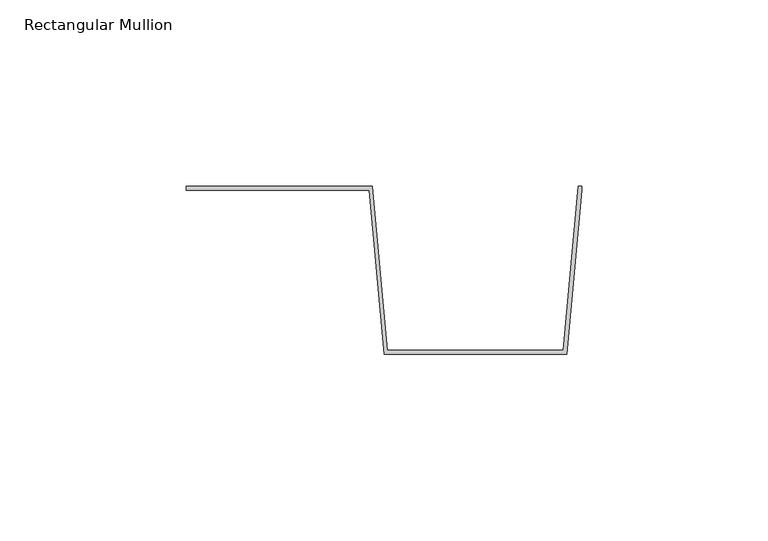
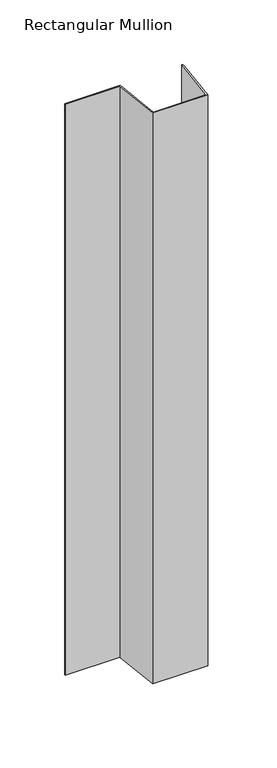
"""IFC4 building model written with IfcOpenShell, lengths in millimetres: member geometry, Rectangular Mullion : CD_NINELINE_Batten Intermediate."""

from ifc_helpers import new_model, si_unit, frame, origin, place, context, project, spatial, polyline, outline, extrude, source, transform, mapped, element, save


def rectangular_mullion_119e265c(model_context):
    return source(origin(), model_context, "Body", "SweptSolid", [
        extrude(outline(polyline([(0.0, 0.0), (49.9132146, 0.0), (53.9132146, -44.0), (101.0867854, -44.0), (105.0867854, 0.0), (106.0, 0.0), (106.0, -1.0), (102.0, -45.0), (53.0, -45.0), (49.0, -1.0), (0.0, -1.0), (0.0, 0.0)])), frame((0.0, 0.0, -540.0), z_axis=(0.0, 0.0, 1.0), x_axis=(1.0, 0.0, 0.0)), (0.0, 0.0, 1.0), 540.0),
    ])


if __name__ == "__main__":
    model = new_model("IFC4")
    model_context = context("Model", 3, world=origin())
    ifc_project = project(units=[si_unit("LENGTHUNIT", "METRE", prefix="MILLI")], contexts=[model_context])
    site = spatial("IfcSite", under=ifc_project)
    building = spatial("IfcBuilding", under=site)
    placement = place(None, origin())
    rectangular_mullion_shape = rectangular_mullion_119e265c(model_context)
    element("IfcMember", 1, ObjectType="Rectangular Mullion : CD_NINELINE_Batten Intermediate", at=placement, inside=building, context=model_context, shape_type="MappedRepresentation", body=[
        mapped(rectangular_mullion_shape, transform((0.0, 0.0, 0.0), x_axis=(1.0, 0.0, 0.0), y_axis=(0.0, 1.0, 0.0), z_axis=(0.0, 0.0, 1.0))),
    ])
    save(model, "model.ifc")
